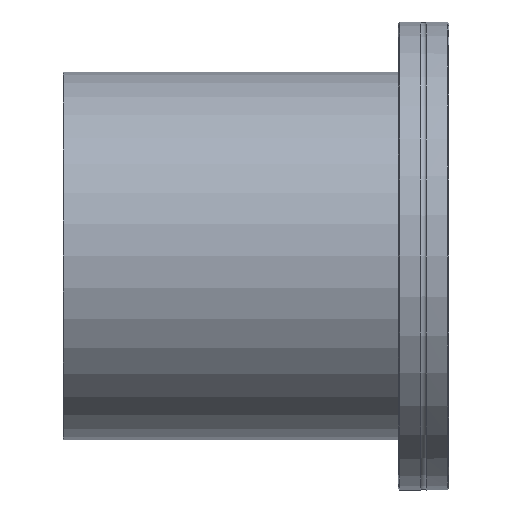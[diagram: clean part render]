
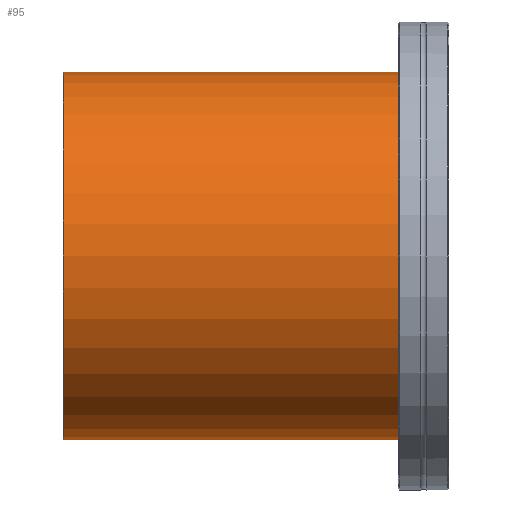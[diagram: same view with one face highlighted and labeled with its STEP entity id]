
A CAD part, front view. The second image highlights one B-rep face of the part: STEP entity #95.
In plain terms, the highlighted cylindrical face has radius 79.5 mm (diameter 159 mm), a full revolution.
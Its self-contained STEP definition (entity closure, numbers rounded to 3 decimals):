
#68=CARTESIAN_POINT('',(-167.,0.,0.));
#69=DIRECTION('',(1.0,0.,0.));
#70=DIRECTION('',(0.0,0.0,1.0));
#71=AXIS2_PLACEMENT_3D('',#68,#69,#70);
#72=CYLINDRICAL_SURFACE('',#71,79.5);
#73=CARTESIAN_POINT('',(-12.,0.,-79.5));
#74=VERTEX_POINT('',#73);
#75=CARTESIAN_POINT('',(-12.,0.,0.));
#76=DIRECTION('',(1.0,0.0,0.0));
#77=DIRECTION('',(0.0,0.0,1.0));
#78=AXIS2_PLACEMENT_3D('',#75,#76,#77);
#79=CIRCLE('',#78,79.5);
#80=EDGE_CURVE('',#74,#74,#79,.T.);
#81=ORIENTED_EDGE('',*,*,#80,.F.);
#82=EDGE_LOOP('',(#81));
#83=FACE_OUTER_BOUND('',#82,.T.);
#84=CARTESIAN_POINT('',(-167.,0.,-79.5));
#85=VERTEX_POINT('',#84);
#86=CARTESIAN_POINT('',(-167.,0.,0.));
#87=DIRECTION('',(-1.0,0.0,0.0));
#88=DIRECTION('',(0.0,0.0,1.0));
#89=AXIS2_PLACEMENT_3D('',#86,#87,#88);
#90=CIRCLE('',#89,79.5);
#91=EDGE_CURVE('',#85,#85,#90,.T.);
#92=ORIENTED_EDGE('',*,*,#91,.F.);
#93=EDGE_LOOP('',(#92));
#94=FACE_BOUND('',#93,.T.);
#95=ADVANCED_FACE('',(#83,#94),#72,.T.);
